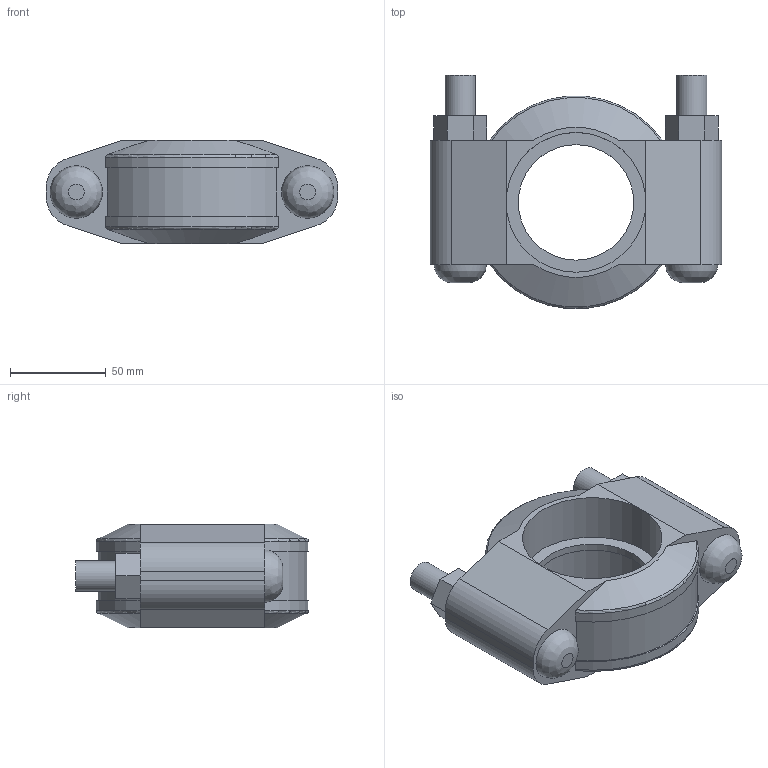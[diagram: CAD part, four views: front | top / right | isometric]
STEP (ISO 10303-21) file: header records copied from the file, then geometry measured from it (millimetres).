
FILE_DESCRIPTION(/* description */ ('VIC CPLG RGD IR STYLE HP-170 (ESG)'),/* implementation_level */ '2;1');
FILE_NAME(/* name */ 'C:\Files for Export\HP-170\STEP\Victaulic_IPS-EndSeal_Cplg Rgd_IR_Style HP-170 (ESG)\Victaulic_IPS-EndSeal_Cplg Rgd_IR_Style HP-170 (ESG)_2.5 (65).stp',/* time_stamp */ '2023-12-19T11:33:19+01:00',/* author */ ('CONSTRUCTION PIPING SERVICES'),/* organization */ ('Victaulic'),/* preprocessor_version */ 'ST-DEVELOPER v18.1',/* originating_system */ 'Autodesk Inventor 2020',/* authorisation */ '');
FILE_SCHEMA (('AUTOMOTIVE_DESIGN { 1 0 10303 214 3 1 1 }'));
Length unit declared in the file: inch
Products named in the file (1): HP-170-02.5
Bounding box: 152.4 x 121.72 x 54.1 mm (x, y, z)
Volume: 384296.6 mm3; surface area: 69879.1 mm2
Topology: 1 solids, 3 shells, 77 faces, 195 edges, 130 vertices
Faces by surface type: plane 46, cylinder 21, torus 4, cone 4, bspline 2
Full cylindrical faces by diameter (mm): 15.875 x4, 60.325 x1, 73.025 x2
Entity records: 2555 total; most frequent: CARTESIAN_POINT 527, DIRECTION 395, ORIENTED_EDGE 390, EDGE_CURVE 195, AXIS2_PLACEMENT_3D 140, VERTEX_POINT 130, LINE 115, VECTOR 115
